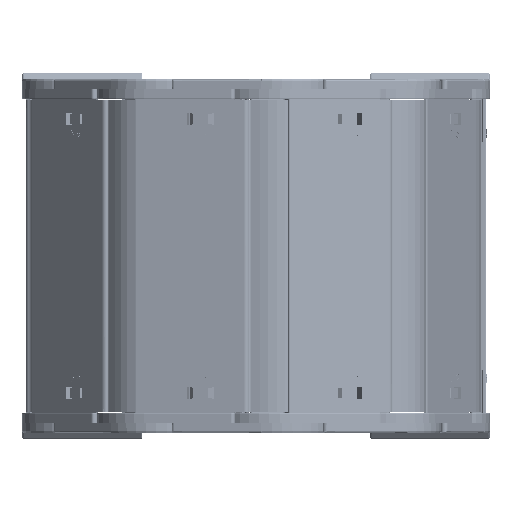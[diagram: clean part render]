
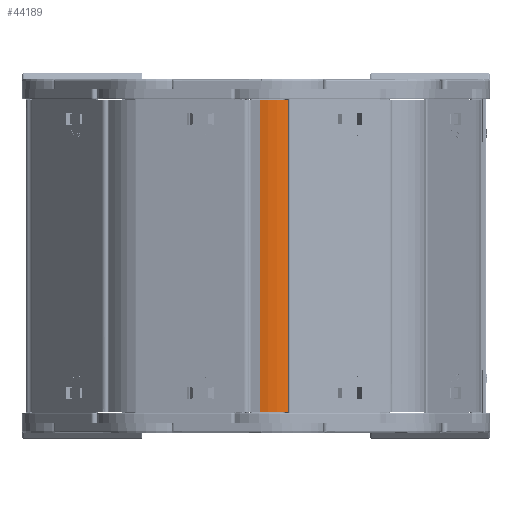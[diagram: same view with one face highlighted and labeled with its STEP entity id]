
A CAD part, left-side view. The second image highlights one B-rep face of the part: STEP entity #44189.
In plain terms, the highlighted cylindrical face has radius 29.2 mm (diameter 58.4 mm), a partial arc.
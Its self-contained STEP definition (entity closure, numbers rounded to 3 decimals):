
#1068 = VERTEX_POINT ( 'NONE', #53801 ) ;
#1972 = EDGE_CURVE ( 'NONE', #1068, #39888, #27496, .T. ) ;
#2589 = DIRECTION ( 'NONE',  ( 1., 0., 0. ) ) ;
#3025 = CARTESIAN_POINT ( 'NONE',  ( 25.609, 31.503, -103.312 ) ) ;
#3864 = CARTESIAN_POINT ( 'NONE',  ( 43.645, 8.539, -103.312 ) ) ;
#5331 = VERTEX_POINT ( 'NONE', #47969 ) ;
#6963 = ORIENTED_EDGE ( 'NONE', *, *, #1972, .T. ) ;
#7394 = DIRECTION ( 'NONE',  ( 1., 0., 0. ) ) ;
#7940 = FACE_OUTER_BOUND ( 'NONE', #22519, .T. ) ;
#8609 = VECTOR ( 'NONE', #9374, 1000. ) ;
#9374 = DIRECTION ( 'NONE',  ( 0., 0., 1. ) ) ;
#9453 = AXIS2_PLACEMENT_3D ( 'NONE', #39045, #13350, #43384 ) ;
#13156 = CIRCLE ( 'NONE', #34088, 29.2 ) ;
#13350 = DIRECTION ( 'NONE',  ( 0., 0., 1. ) ) ;
#17550 = CARTESIAN_POINT ( 'NONE',  ( 25.609, 2.303, 107.8 ) ) ;
#18023 = CARTESIAN_POINT ( 'NONE',  ( 25.609, 2.303, -103.312 ) ) ;
#22519 = EDGE_LOOP ( 'NONE', ( #38983, #23281, #35258, #6963 ) ) ;
#23281 = ORIENTED_EDGE ( 'NONE', *, *, #52900, .T. ) ;
#27496 = CIRCLE ( 'NONE', #9453, 29.2 ) ;
#28357 = DIRECTION ( 'NONE',  ( 0., 0., -1. ) ) ;
#29180 = LINE ( 'NONE', #3864, #30518 ) ;
#30518 = VECTOR ( 'NONE', #33904, 1000. ) ;
#33904 = DIRECTION ( 'NONE',  ( 0., 0., 1. ) ) ;
#34088 = AXIS2_PLACEMENT_3D ( 'NONE', #54060, #28357, #2589 ) ;
#35258 = ORIENTED_EDGE ( 'NONE', *, *, #50268, .F. ) ;
#38569 = EDGE_CURVE ( 'NONE', #39888, #5331, #29180, .T. ) ;
#38983 = ORIENTED_EDGE ( 'NONE', *, *, #38569, .T. ) ;
#39045 = CARTESIAN_POINT ( 'NONE',  ( 25.609, 31.503, -66.3 ) ) ;
#39888 = VERTEX_POINT ( 'NONE', #49533 ) ;
#40263 = AXIS2_PLACEMENT_3D ( 'NONE', #3025, #46091, #7394 ) ;
#42867 = LINE ( 'NONE', #18023, #8609 ) ;
#43384 = DIRECTION ( 'NONE',  ( 1., 0., 0. ) ) ;
#44189 = ADVANCED_FACE ( 'NONE', ( #7940 ), #50896, .T. ) ;
#46091 = DIRECTION ( 'NONE',  ( 0., 0., 1. ) ) ;
#47969 = CARTESIAN_POINT ( 'NONE',  ( 43.645, 8.539, 107.8 ) ) ;
#49133 = VERTEX_POINT ( 'NONE', #17550 ) ;
#49533 = CARTESIAN_POINT ( 'NONE',  ( 43.645, 8.539, -66.3 ) ) ;
#50268 = EDGE_CURVE ( 'NONE', #1068, #49133, #42867, .T. ) ;
#50896 = CYLINDRICAL_SURFACE ( 'NONE', #40263, 29.2 ) ;
#52900 = EDGE_CURVE ( 'NONE', #5331, #49133, #13156, .T. ) ;
#53801 = CARTESIAN_POINT ( 'NONE',  ( 25.609, 2.303, -66.3 ) ) ;
#54060 = CARTESIAN_POINT ( 'NONE',  ( 25.609, 31.503, 107.8 ) ) ;
